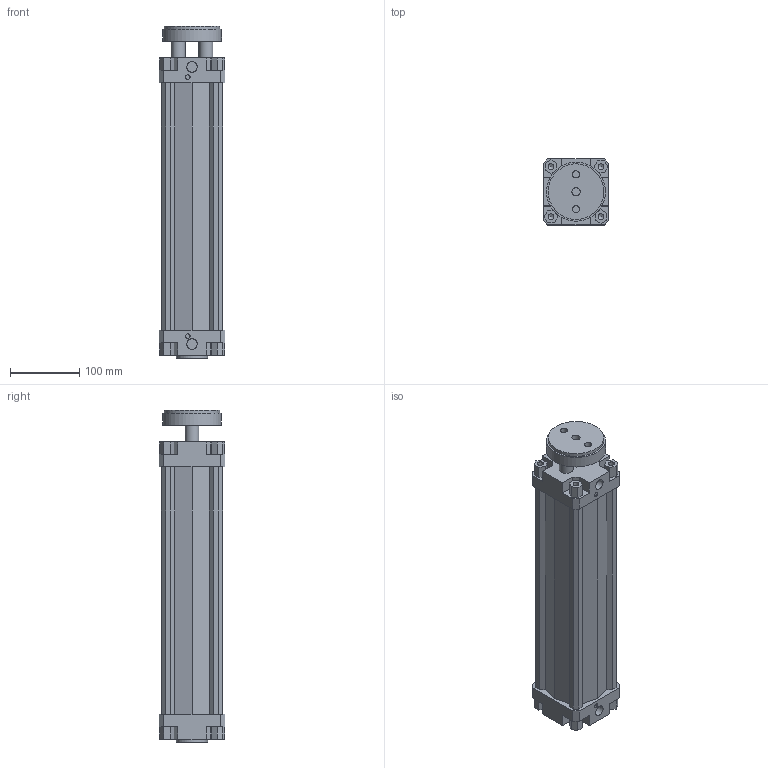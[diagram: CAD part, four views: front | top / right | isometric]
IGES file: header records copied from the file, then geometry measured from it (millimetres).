
Global section: file name: 132#_080_0300_01; native system: Autodesk Inventor 2014; preprocessor: unknown; author: A. Manieri; date: 20161006.162427; units: millimetre
Bounding box: 95 x 95 x 478 mm (x, y, z)
Volume: 1841831.9 mm3; surface area: 382142.7 mm2
Topology: 2 solids, 2 shells, 180 faces, 491 edges, 335 vertices
Faces by surface type: bspline 180
